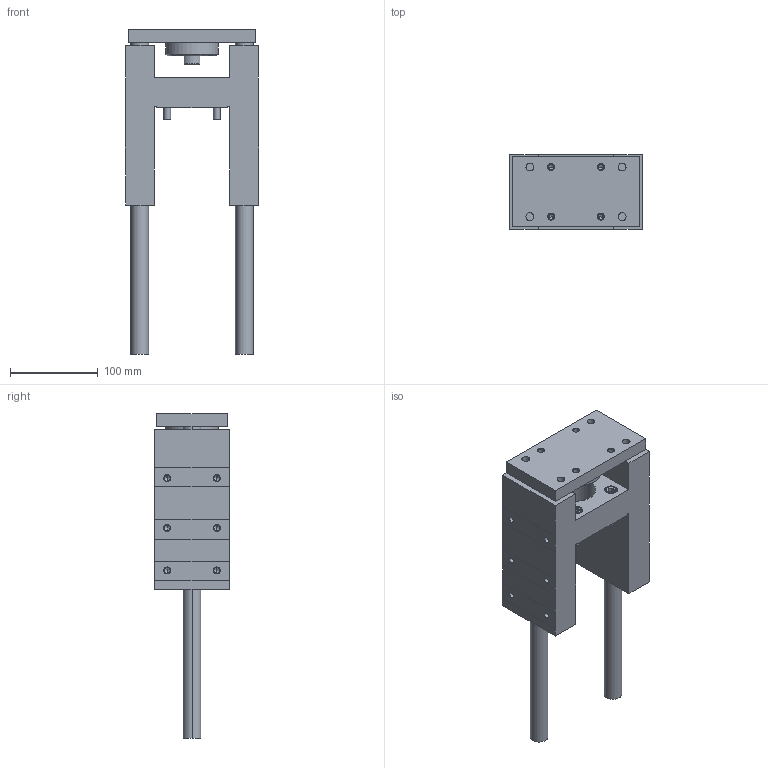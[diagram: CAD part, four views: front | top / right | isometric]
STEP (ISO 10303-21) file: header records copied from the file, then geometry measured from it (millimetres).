
FILE_DESCRIPTION (( 'STEP AP203' ), '1' );
FILE_NAME ('GB63-150.STEP', '2020-04-24T13:22:00', ( '' ), ( '' ), 'SwSTEP 2.0', 'SolidWorks 2019', '' );
FILE_SCHEMA (( 'CONFIG_CONTROL_DESIGN' ));
Length unit declared in the file: millimetre
Products named in the file (1): GB63-150
Bounding box: 152 x 85 x 370 mm (x, y, z)
Volume: 1519125.9 mm3; surface area: 233054.9 mm2
Topology: 6 solids, 6 shells, 363 faces, 814 edges, 462 vertices
Faces by surface type: cone 146, plane 115, cylinder 102
Entity records: 10453 total; most frequent: CARTESIAN_POINT 2284, DIRECTION 1812, ORIENTED_EDGE 1556, EDGE_CURVE 778, AXIS2_PLACEMENT_3D 702, VERTEX_POINT 462, EDGE_LOOP 428, LINE 408
